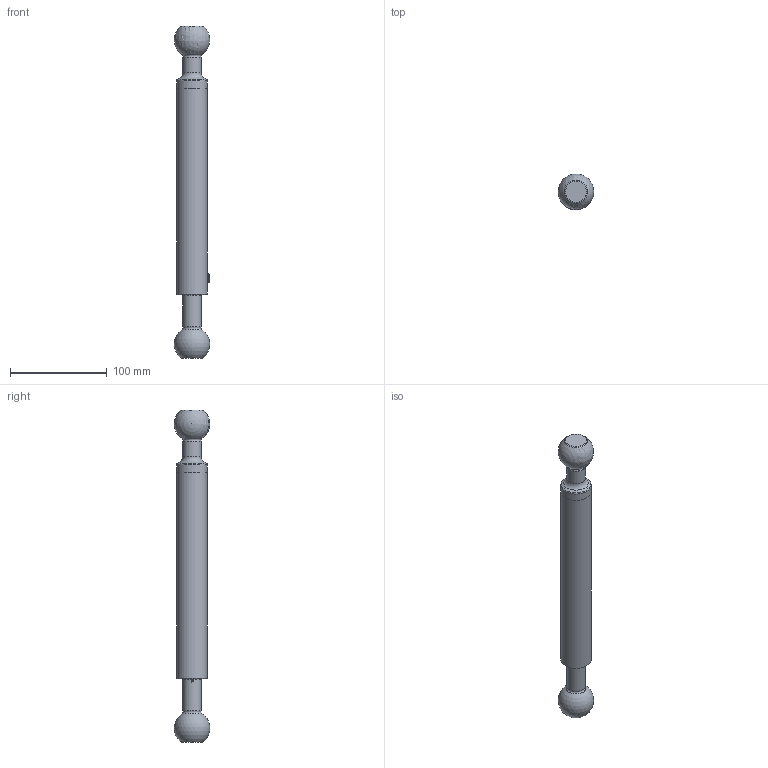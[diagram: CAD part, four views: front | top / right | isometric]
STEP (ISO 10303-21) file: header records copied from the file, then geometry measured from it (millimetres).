
FILE_DESCRIPTION(/* description */ (''),/* implementation_level */ '2;1');
FILE_NAME(/* name */ 'C:\Users\owner\Desktop\HDPL-POSTS_3D_stp\HDPL-TPOST6IN-BL.stp',/* time_stamp */ '2017-10-02T09:28:01-04:00',/* author */ ('owner'),/* organization */ (''),/* preprocessor_version */ 'ST-DEVELOPER v16.5',/* originating_system */ 'Autodesk Inventor 2017',/* authorisation */ '');
FILE_SCHEMA (('CONFIG_CONTROL_DESIGN'));
Length unit declared in the file: inch
Products named in the file (6): PL-HDTPOST6IN-BL; 60068; 60071; 60067; #92775; 60076
Assembly tree (5 placements, depth 2):
  PL-HDTPOST6IN-BL
    60068
    60071
    60067
    #92775
    60076
Bounding box: 36.65 x 36.62 x 342.61 mm (x, y, z)
Volume: 236637.6 mm3; surface area: 65195.1 mm2
Topology: 5 solids, 5 shells, 947 faces, 2546 edges, 1680 vertices
Faces by surface type: bspline 410, plane 388, cylinder 107, torus 24, cone 16, sphere 2
Full cylindrical faces by diameter (mm): 7 x1, 8.382 x1, 9.131 x1, 10.033 x1, 10.693 x1, 10.744 x1, 18.923 x2, 19.05 x1, 19.446 x1, 19.482 x1, 22.123 x1, 22.187 x1, 22.225 x2, 31.75 x2
Entity records: 40278 total; most frequent: CARTESIAN_POINT 19339, ORIENTED_EDGE 4868, DIRECTION 3143, EDGE_CURVE 2434, VERTEX_POINT 1638, LINE 1165, VECTOR 1165, EDGE_LOOP 1086
